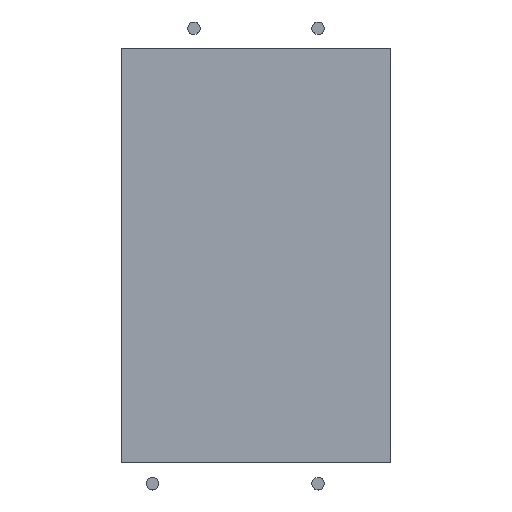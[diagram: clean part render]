
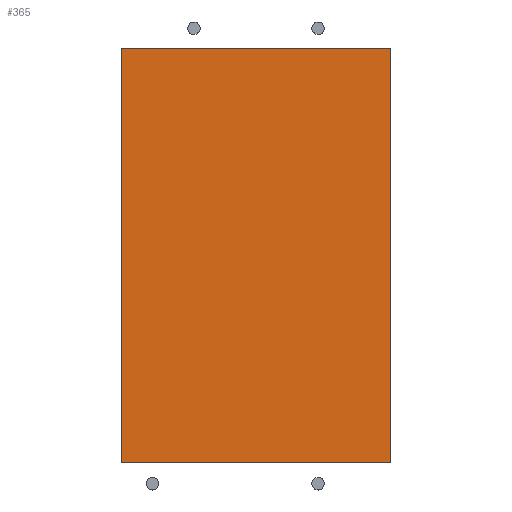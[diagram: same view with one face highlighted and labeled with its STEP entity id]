
A CAD part, top view. The second image highlights one B-rep face of the part: STEP entity #365.
In plain terms, the highlighted planar face has unit normal (0, 0, 1).
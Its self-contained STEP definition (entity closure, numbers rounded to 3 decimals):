
#51 = VERTEX_POINT('',#52);
#52 = CARTESIAN_POINT('',(-12.065,-1.27,6.604));
#59 = PLANE('',#60);
#60 = AXIS2_PLACEMENT_3D('',#61,#62,#63);
#61 = CARTESIAN_POINT('',(-12.065,-1.27,0.));
#62 = DIRECTION('',(0.,1.,0.));
#63 = DIRECTION('',(1.,0.,0.));
#71 = PLANE('',#72);
#72 = AXIS2_PLACEMENT_3D('',#73,#74,#75);
#73 = CARTESIAN_POINT('',(-12.065,-26.67,0.));
#74 = DIRECTION('',(-1.,0.,0.));
#75 = DIRECTION('',(0.,1.,0.));
#83 = EDGE_CURVE('',#51,#84,#86,.T.);
#84 = VERTEX_POINT('',#85);
#85 = CARTESIAN_POINT('',(4.445,-1.27,6.604));
#86 = SURFACE_CURVE('',#87,(#91,#98),.PCURVE_S1.);
#87 = LINE('',#88,#89);
#88 = CARTESIAN_POINT('',(-12.065,-1.27,6.604));
#89 = VECTOR('',#90,1.);
#90 = DIRECTION('',(1.,0.,0.));
#91 = PCURVE('',#59,#92);
#92 = DEFINITIONAL_REPRESENTATION('',(#93),#97);
#93 = LINE('',#94,#95);
#94 = CARTESIAN_POINT('',(0.,-6.604));
#95 = VECTOR('',#96,1.);
#96 = DIRECTION('',(1.,0.));
#97 = ( GEOMETRIC_REPRESENTATION_CONTEXT(2) 
PARAMETRIC_REPRESENTATION_CONTEXT() REPRESENTATION_CONTEXT('2D SPACE',''
  ) );
#98 = PCURVE('',#99,#104);
#99 = PLANE('',#100);
#100 = AXIS2_PLACEMENT_3D('',#101,#102,#103);
#101 = CARTESIAN_POINT('',(-3.81,-13.97,6.604));
#102 = DIRECTION('',(-0.,-0.,-1.));
#103 = DIRECTION('',(-1.,0.,0.));
#104 = DEFINITIONAL_REPRESENTATION('',(#105),#109);
#105 = LINE('',#106,#107);
#106 = CARTESIAN_POINT('',(8.255,12.7));
#107 = VECTOR('',#108,1.);
#108 = DIRECTION('',(-1.,0.));
#109 = ( GEOMETRIC_REPRESENTATION_CONTEXT(2) 
PARAMETRIC_REPRESENTATION_CONTEXT() REPRESENTATION_CONTEXT('2D SPACE',''
  ) );
#127 = PLANE('',#128);
#128 = AXIS2_PLACEMENT_3D('',#129,#130,#131);
#129 = CARTESIAN_POINT('',(4.445,-1.27,0.));
#130 = DIRECTION('',(1.,0.,-0.));
#131 = DIRECTION('',(0.,-1.,0.));
#169 = EDGE_CURVE('',#84,#170,#172,.T.);
#170 = VERTEX_POINT('',#171);
#171 = CARTESIAN_POINT('',(4.445,-26.67,6.604));
#172 = SURFACE_CURVE('',#173,(#177,#184),.PCURVE_S1.);
#173 = LINE('',#174,#175);
#174 = CARTESIAN_POINT('',(4.445,-1.27,6.604));
#175 = VECTOR('',#176,1.);
#176 = DIRECTION('',(0.,-1.,0.));
#177 = PCURVE('',#127,#178);
#178 = DEFINITIONAL_REPRESENTATION('',(#179),#183);
#179 = LINE('',#180,#181);
#180 = CARTESIAN_POINT('',(0.,-6.604));
#181 = VECTOR('',#182,1.);
#182 = DIRECTION('',(1.,0.));
#183 = ( GEOMETRIC_REPRESENTATION_CONTEXT(2) 
PARAMETRIC_REPRESENTATION_CONTEXT() REPRESENTATION_CONTEXT('2D SPACE',''
  ) );
#184 = PCURVE('',#99,#185);
#185 = DEFINITIONAL_REPRESENTATION('',(#186),#190);
#186 = LINE('',#187,#188);
#187 = CARTESIAN_POINT('',(-8.255,12.7));
#188 = VECTOR('',#189,1.);
#189 = DIRECTION('',(0.,-1.));
#190 = ( GEOMETRIC_REPRESENTATION_CONTEXT(2) 
PARAMETRIC_REPRESENTATION_CONTEXT() REPRESENTATION_CONTEXT('2D SPACE',''
  ) );
#208 = PLANE('',#209);
#209 = AXIS2_PLACEMENT_3D('',#210,#211,#212);
#210 = CARTESIAN_POINT('',(4.445,-26.67,0.));
#211 = DIRECTION('',(0.,-1.,0.));
#212 = DIRECTION('',(-1.,0.,0.));
#245 = EDGE_CURVE('',#170,#246,#248,.T.);
#246 = VERTEX_POINT('',#247);
#247 = CARTESIAN_POINT('',(-12.065,-26.67,6.604));
#248 = SURFACE_CURVE('',#249,(#253,#260),.PCURVE_S1.);
#249 = LINE('',#250,#251);
#250 = CARTESIAN_POINT('',(4.445,-26.67,6.604));
#251 = VECTOR('',#252,1.);
#252 = DIRECTION('',(-1.,0.,0.));
#253 = PCURVE('',#208,#254);
#254 = DEFINITIONAL_REPRESENTATION('',(#255),#259);
#255 = LINE('',#256,#257);
#256 = CARTESIAN_POINT('',(0.,-6.604));
#257 = VECTOR('',#258,1.);
#258 = DIRECTION('',(1.,0.));
#259 = ( GEOMETRIC_REPRESENTATION_CONTEXT(2) 
PARAMETRIC_REPRESENTATION_CONTEXT() REPRESENTATION_CONTEXT('2D SPACE',''
  ) );
#260 = PCURVE('',#99,#261);
#261 = DEFINITIONAL_REPRESENTATION('',(#262),#266);
#262 = LINE('',#263,#264);
#263 = CARTESIAN_POINT('',(-8.255,-12.7));
#264 = VECTOR('',#265,1.);
#265 = DIRECTION('',(1.,0.));
#266 = ( GEOMETRIC_REPRESENTATION_CONTEXT(2) 
PARAMETRIC_REPRESENTATION_CONTEXT() REPRESENTATION_CONTEXT('2D SPACE',''
  ) );
#316 = EDGE_CURVE('',#246,#51,#317,.T.);
#317 = SURFACE_CURVE('',#318,(#322,#329),.PCURVE_S1.);
#318 = LINE('',#319,#320);
#319 = CARTESIAN_POINT('',(-12.065,-26.67,6.604));
#320 = VECTOR('',#321,1.);
#321 = DIRECTION('',(0.,1.,0.));
#322 = PCURVE('',#71,#323);
#323 = DEFINITIONAL_REPRESENTATION('',(#324),#328);
#324 = LINE('',#325,#326);
#325 = CARTESIAN_POINT('',(0.,-6.604));
#326 = VECTOR('',#327,1.);
#327 = DIRECTION('',(1.,0.));
#328 = ( GEOMETRIC_REPRESENTATION_CONTEXT(2) 
PARAMETRIC_REPRESENTATION_CONTEXT() REPRESENTATION_CONTEXT('2D SPACE',''
  ) );
#329 = PCURVE('',#99,#330);
#330 = DEFINITIONAL_REPRESENTATION('',(#331),#335);
#331 = LINE('',#332,#333);
#332 = CARTESIAN_POINT('',(8.255,-12.7));
#333 = VECTOR('',#334,1.);
#334 = DIRECTION('',(0.,1.));
#335 = ( GEOMETRIC_REPRESENTATION_CONTEXT(2) 
PARAMETRIC_REPRESENTATION_CONTEXT() REPRESENTATION_CONTEXT('2D SPACE',''
  ) );
#365 = ADVANCED_FACE('',(#366),#99,.F.);
#366 = FACE_BOUND('',#367,.F.);
#367 = EDGE_LOOP('',(#368,#369,#370,#371));
#368 = ORIENTED_EDGE('',*,*,#83,.T.);
#369 = ORIENTED_EDGE('',*,*,#169,.T.);
#370 = ORIENTED_EDGE('',*,*,#245,.T.);
#371 = ORIENTED_EDGE('',*,*,#316,.T.);
